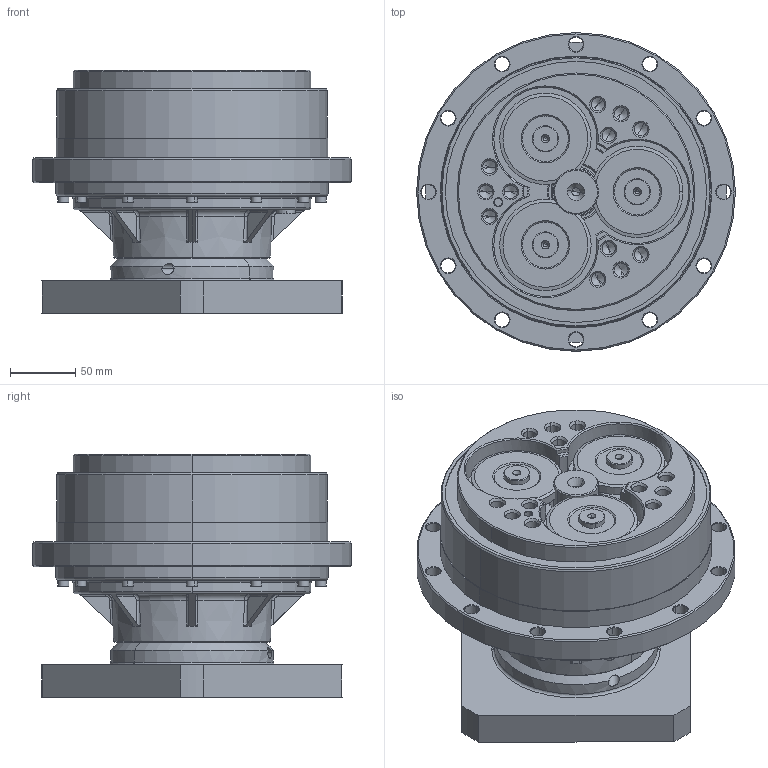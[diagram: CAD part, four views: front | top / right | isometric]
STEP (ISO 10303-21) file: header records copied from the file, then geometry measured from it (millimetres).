
FILE_DESCRIPTION (( 'STEP AP214' ), '1' );
FILE_NAME ('250BX-RA-00-1143200.STEP', '2022-11-11T09:18:23', ( '' ), ( '' ), 'SwSTEP 2.0', 'SolidWorks 2020', '' );
FILE_SCHEMA (( 'AUTOMOTIVE_DESIGN' ));
Length unit declared in the file: millimetre
Products named in the file (12): 250BX-RA-00-1143200.stp; 250BX粣-22.stp; 250BX-RA输入法兰01.stp; 粣創 6010-2Z GB_T 276-94.stp; 250BX-OP-01.stp; 錨璃1218^250BX-RA-00-1143200; DIN 908 - M10 x 1.stp; 萇儂假蚾楊擘175-200-35-90.stp; 蹟隊 GB_T 70.1 M8 x 30.stp; 坶踡ん25-45.stp; 250BX-RA-00-1143200; 蹟隊 GB_T 70.1 M5 x 30.stp
Assembly tree (27 placements, depth 3):
  250BX-RA-00-1143200
    250BX-RA-00-1143200.stp
      250BX-RA输入法兰01.stp
      250BX-OP-01.stp
      250BX粣-22.stp
      粣創 6010-2Z GB_T 276-94.stp
      萇儂假蚾楊擘175-200-35-90.stp
      坶踡ん25-45.stp
      DIN 908 - M10 x 1.stp
      蹟隊 GB_T 70.1 M8 x 30.stp  x6
      蹟隊 GB_T 70.1 M5 x 30.stp  x12
    錨璃1218^250BX-RA-00-1143200
Bounding box: 244 x 244 x 186.2 mm (x, y, z)
Volume: 4201034.7 mm3; surface area: 524364.6 mm2
Topology: 106 solids, 106 shells, 3346 faces, 8613 edges, 5490 vertices
Faces by surface type: plane 1467, bspline 640, cylinder 538, cone 517, torus 158, sphere 26
Entity records: 138902 total; most frequent: CARTESIAN_POINT 50700, ORIENTED_EDGE 15240, DIRECTION 11988, EDGE_CURVE 7620, VERTEX_POINT 4923, VECTOR 4642, LINE 4642, AXIS2_PLACEMENT_3D 3673
